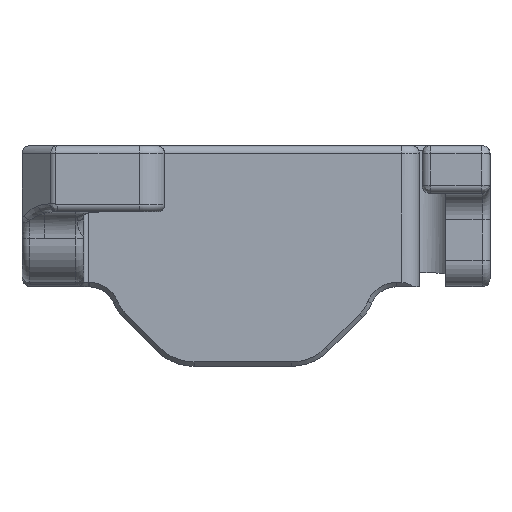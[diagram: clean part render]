
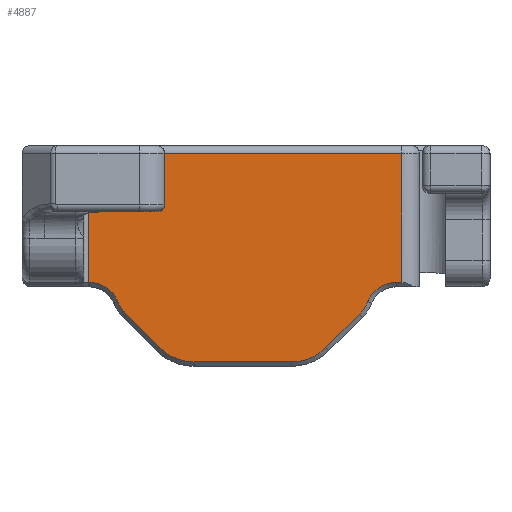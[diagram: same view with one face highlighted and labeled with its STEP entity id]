
A CAD part, front view. The second image highlights one B-rep face of the part: STEP entity #4887.
In plain terms, the highlighted planar face has unit normal (0, -1, 0).
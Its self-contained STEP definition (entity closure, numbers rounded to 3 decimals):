
#190=PLANE('',#5374);
#512=FACE_OUTER_BOUND('',#815,.T.);
#815=EDGE_LOOP('',(#4260,#4261,#4262,#4263,#4264,#4265,#4266,#4267,#4268,
#4269,#4270,#4271,#4272,#4273));
#1062=CIRCLE('',#5375,3.5);
#1063=CIRCLE('',#5376,4.5);
#1064=CIRCLE('',#5377,5.5);
#1065=CIRCLE('',#5378,5.5);
#1066=CIRCLE('',#5379,4.5);
#1067=CIRCLE('',#5380,3.5);
#1424=LINE('',#11702,#1686);
#1504=LINE('',#13005,#1766);
#1505=LINE('',#13008,#1767);
#1506=LINE('',#13014,#1768);
#1507=LINE('',#13018,#1769);
#1508=LINE('',#13022,#1770);
#1509=LINE('',#13028,#1771);
#1510=LINE('',#13029,#1772);
#1686=VECTOR('',#6020,10.);
#1766=VECTOR('',#6512,10.);
#1767=VECTOR('',#6515,10.);
#1768=VECTOR('',#6520,10.);
#1769=VECTOR('',#6523,10.);
#1770=VECTOR('',#6526,10.);
#1771=VECTOR('',#6531,10.);
#1772=VECTOR('',#6532,10.);
#2125=VERTEX_POINT('',#11696);
#2126=VERTEX_POINT('',#11700);
#2229=VERTEX_POINT('',#13003);
#2230=VERTEX_POINT('',#13007);
#2231=VERTEX_POINT('',#13009);
#2232=VERTEX_POINT('',#13011);
#2233=VERTEX_POINT('',#13013);
#2234=VERTEX_POINT('',#13015);
#2235=VERTEX_POINT('',#13017);
#2236=VERTEX_POINT('',#13019);
#2237=VERTEX_POINT('',#13021);
#2238=VERTEX_POINT('',#13023);
#2239=VERTEX_POINT('',#13025);
#2240=VERTEX_POINT('',#13027);
#2707=EDGE_CURVE('',#2126,#2125,#1424,.T.);
#2934=EDGE_CURVE('',#2229,#2126,#1504,.T.);
#2935=EDGE_CURVE('',#2230,#2229,#1505,.T.);
#2936=EDGE_CURVE('',#2231,#2230,#1062,.T.);
#2937=EDGE_CURVE('',#2232,#2231,#1063,.T.);
#2938=EDGE_CURVE('',#2233,#2232,#1506,.T.);
#2939=EDGE_CURVE('',#2234,#2233,#1064,.T.);
#2940=EDGE_CURVE('',#2235,#2234,#1507,.T.);
#2941=EDGE_CURVE('',#2236,#2235,#1065,.T.);
#2942=EDGE_CURVE('',#2237,#2236,#1508,.T.);
#2943=EDGE_CURVE('',#2238,#2237,#1066,.T.);
#2944=EDGE_CURVE('',#2239,#2238,#1067,.T.);
#2945=EDGE_CURVE('',#2240,#2239,#1509,.T.);
#2946=EDGE_CURVE('',#2125,#2240,#1510,.T.);
#4260=ORIENTED_EDGE('',*,*,#2707,.F.);
#4261=ORIENTED_EDGE('',*,*,#2934,.F.);
#4262=ORIENTED_EDGE('',*,*,#2935,.F.);
#4263=ORIENTED_EDGE('',*,*,#2936,.F.);
#4264=ORIENTED_EDGE('',*,*,#2937,.F.);
#4265=ORIENTED_EDGE('',*,*,#2938,.F.);
#4266=ORIENTED_EDGE('',*,*,#2939,.F.);
#4267=ORIENTED_EDGE('',*,*,#2940,.F.);
#4268=ORIENTED_EDGE('',*,*,#2941,.F.);
#4269=ORIENTED_EDGE('',*,*,#2942,.F.);
#4270=ORIENTED_EDGE('',*,*,#2943,.F.);
#4271=ORIENTED_EDGE('',*,*,#2944,.F.);
#4272=ORIENTED_EDGE('',*,*,#2945,.F.);
#4273=ORIENTED_EDGE('',*,*,#2946,.F.);
#4887=ADVANCED_FACE('',(#512),#190,.T.);
#5374=AXIS2_PLACEMENT_3D('',#13006,#6513,#6514);
#5375=AXIS2_PLACEMENT_3D('',#13010,#6516,#6517);
#5376=AXIS2_PLACEMENT_3D('',#13012,#6518,#6519);
#5377=AXIS2_PLACEMENT_3D('',#13016,#6521,#6522);
#5378=AXIS2_PLACEMENT_3D('',#13020,#6524,#6525);
#5379=AXIS2_PLACEMENT_3D('',#13024,#6527,#6528);
#5380=AXIS2_PLACEMENT_3D('',#13026,#6529,#6530);
#6020=DIRECTION('',(1.,0.,0.));
#6512=DIRECTION('',(0.,0.,1.));
#6513=DIRECTION('center_axis',(0.,-1.,0.));
#6514=DIRECTION('ref_axis',(0.,0.,-1.));
#6515=DIRECTION('',(-1.,0.,0.));
#6516=DIRECTION('center_axis',(0.,-1.,0.));
#6517=DIRECTION('ref_axis',(0.555,0.,0.832));
#6518=DIRECTION('center_axis',(0.,1.,0.));
#6519=DIRECTION('ref_axis',(-0.924,0.,-0.383));
#6520=DIRECTION('',(-0.707,0.,0.707));
#6521=DIRECTION('center_axis',(0.,1.,0.));
#6522=DIRECTION('ref_axis',(-0.383,0.,-0.924));
#6523=DIRECTION('',(-1.,0.,0.));
#6524=DIRECTION('center_axis',(0.,1.,0.));
#6525=DIRECTION('ref_axis',(0.383,0.,-0.924));
#6526=DIRECTION('',(-0.707,0.,-0.707));
#6527=DIRECTION('center_axis',(0.,1.,0.));
#6528=DIRECTION('ref_axis',(1.,0.,-0.014));
#6529=DIRECTION('center_axis',(0.,-1.,0.));
#6530=DIRECTION('ref_axis',(-0.555,0.,0.832));
#6531=DIRECTION('',(-1.,0.,0.));
#6532=DIRECTION('',(0.,0.,-1.));
#11696=CARTESIAN_POINT('',(54.248,-86.041,15.1));
#11700=CARTESIAN_POINT('',(18.748,-86.041,15.1));
#11702=CARTESIAN_POINT('',(52.998,-86.041,15.1));
#13003=CARTESIAN_POINT('',(18.748,-86.041,0.5));
#13005=CARTESIAN_POINT('',(18.748,-86.041,0.25));
#13006=CARTESIAN_POINT('Origin',(16.748,-86.041,0.));
#13007=CARTESIAN_POINT('',(18.861,-86.041,0.5));
#13008=CARTESIAN_POINT('',(29.79,-86.041,0.5));
#13009=CARTESIAN_POINT('',(22.093,-86.041,-1.656));
#13010=CARTESIAN_POINT('Origin',(18.861,-86.041,-3.));
#13011=CARTESIAN_POINT('',(23.066,-86.041,-3.111));
#13012=CARTESIAN_POINT('Origin',(26.248,-86.041,0.071));
#13013=CARTESIAN_POINT('',(26.844,-86.041,-6.889));
#13014=CARTESIAN_POINT('',(21.727,-86.041,-1.771));
#13015=CARTESIAN_POINT('',(30.733,-86.041,-8.5));
#13016=CARTESIAN_POINT('Origin',(30.733,-86.041,-3.));
#13017=CARTESIAN_POINT('',(41.763,-86.041,-8.5));
#13018=CARTESIAN_POINT('',(16.498,-86.041,-8.5));
#13019=CARTESIAN_POINT('',(45.652,-86.041,-6.889));
#13020=CARTESIAN_POINT('Origin',(41.763,-86.041,-3.));
#13021=CARTESIAN_POINT('',(49.431,-86.041,-3.11));
#13022=CARTESIAN_POINT('',(41.02,-86.041,-11.521));
#13023=CARTESIAN_POINT('',(50.404,-86.041,-1.656));
#13024=CARTESIAN_POINT('Origin',(46.249,-86.041,0.072));
#13025=CARTESIAN_POINT('',(53.636,-86.041,0.5));
#13026=CARTESIAN_POINT('Origin',(53.636,-86.041,-3.));
#13027=CARTESIAN_POINT('',(54.248,-86.041,0.5));
#13028=CARTESIAN_POINT('',(29.79,-86.041,0.5));
#13029=CARTESIAN_POINT('',(54.248,-86.041,16.));
